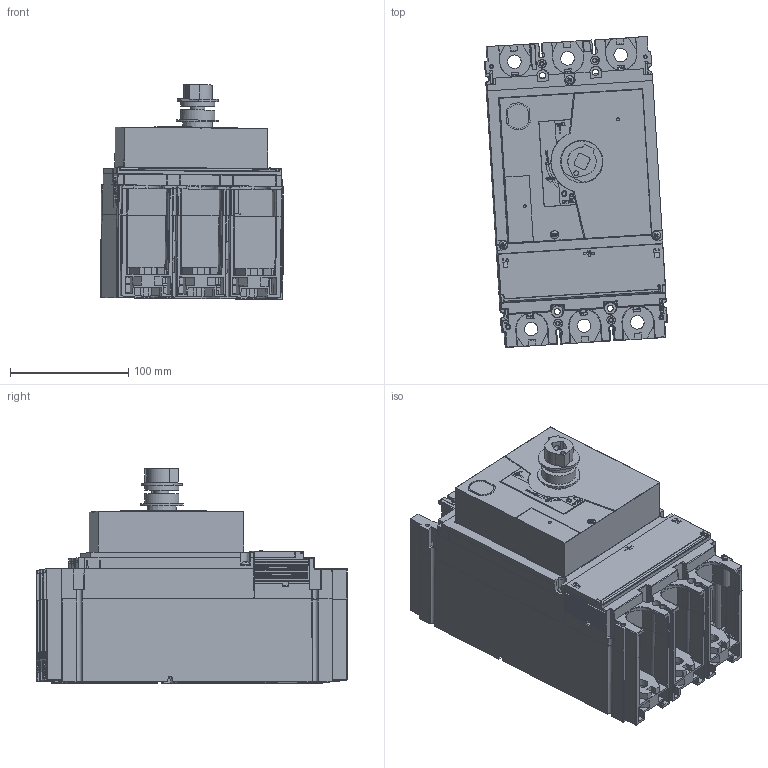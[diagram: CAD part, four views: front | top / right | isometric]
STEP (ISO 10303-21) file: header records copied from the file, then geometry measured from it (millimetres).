
FILE_DESCRIPTION(('STEP AP242'), '1');
FILE_NAME('ÂÀ11-06 ñòàö. èñï.+îñíîâàíèå âûíîñíîé ðóêîÿòêè', '', ('UNSPECIFIED'), ('UNSPECIFIED'), 'C3D Converter', 'C3D Toolkit', '');
FILE_SCHEMA(('AP242_MANAGED_MODEL_BASED_3D_ENGINEERING_MIM_LF { 1 0 10303 442 1 1 4 }'));
Length unit declared in the file: millimetre
Bounding box: 154.82 x 262.98 x 181.41 mm (x, y, z)
Volume: 539046.3 mm3; surface area: 475012.8 mm2
Topology: 5 solids, 6 shells, 6303 faces, 17447 edges, 11216 vertices
Faces by surface type: plane 3402, cylinder 1913, cone 343, bspline 285, sphere 181, torus 141, extrusion 38
Full cylindrical faces by diameter (mm): 1.5 x8, 1.55 x4, 1.7 x2, 2 x1, 2.2 x3, 2.5 x4, 2.6 x2, 3 x1, 3.1 x2, 3.2 x2, 3.5 x3, 3.7 x1, 4 x9, 4.2 x4, 4.5 x5, 5 x2, 5.2 x2, 5.3 x2, 6 x1, 6.8 x1, 7 x3, 9 x2, 9.8 x4, 11.4 x6, 12 x1, 20.6 x1, 26 x1, 29 x2, 36 x1
Entity records: 278076 total; most frequent: CARTESIAN_POINT 69779, ORIENTED_EDGE 34492, DIRECTION 31135, EDGE_CURVE 17247, VERTEX_POINT 11207, VECTOR 11085, LINE 11047, AXIS2_PLACEMENT_3D 10025
